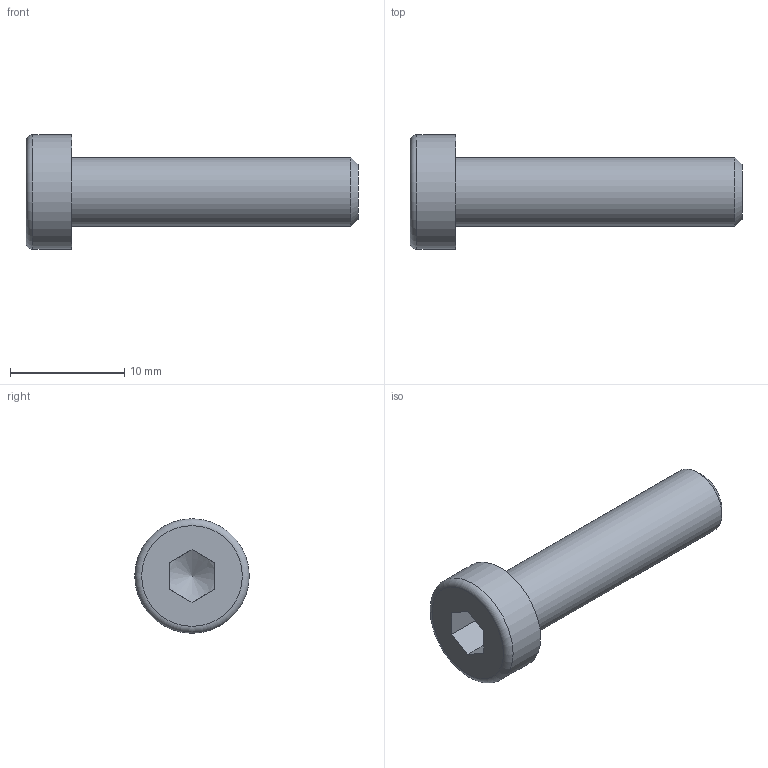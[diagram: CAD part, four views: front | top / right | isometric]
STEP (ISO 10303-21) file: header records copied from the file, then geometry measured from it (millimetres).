
FILE_DESCRIPTION((''),'2;1');
FILE_NAME('C:\Documents and Settings\Administrator\My Documents\Andys Backup Data\ANDY''S INVENTOR\INVENTOR LIBRARIES\MINITEC INVENTOR LIBRARIES\FASTENING ELEMENTS\SCREWS CAP STAINLESS\step\21.1242_1 M6X25 SS.stp','2010-06-30T09:07:11',('Administrator'),(''),'Autodesk Inventor 2009','Autodesk Inventor 2009','');
FILE_SCHEMA(('CONFIG_CONTROL_DESIGN'));
Length unit declared in the file: millimetre
Products named in the file (1): 21.1242/1 M6 x 25 SS
Bounding box: 29 x 10 x 10 mm (x, y, z)
Volume: 966.5 mm3; surface area: 783.8 mm2
Topology: 1 solids, 1 shells, 14 faces, 30 edges, 19 vertices
Faces by surface type: plane 9, cone 2, cylinder 2, torus 1
Full cylindrical faces by diameter (mm): 6 x1, 10 x1
Entity records: 353 total; most frequent: CARTESIAN_POINT 69, DIRECTION 54, ORIENTED_EDGE 48, EDGE_CURVE 24, AXIS2_PLACEMENT_3D 21, EDGE_LOOP 20, VERTEX_POINT 18, FACE_OUTER_BOUND 14
